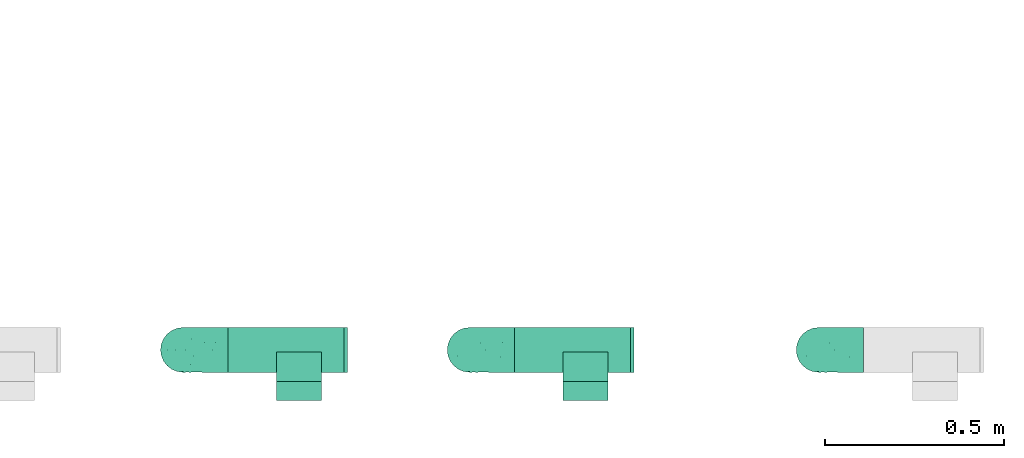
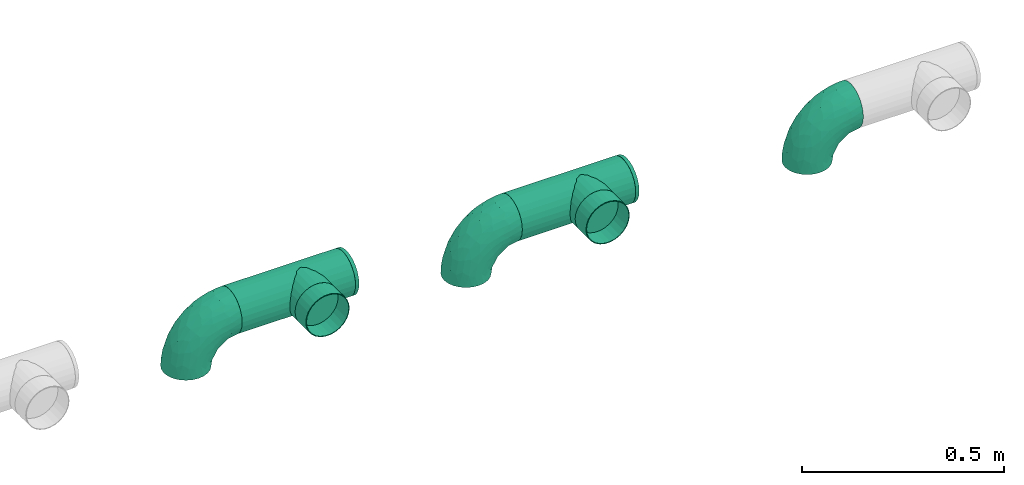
# One storey, part 5 of 63: 7 flow fittings, 4 flow segments.
"""IFC2X3 building model written with IfcOpenShell, lengths in millimetres."""

from ifc_helpers import new_model, entity, si_unit, converted_unit, derived_unit, direction, frame, origin_with_axes, origin_2d_with_axis, place, context, subcontext, project, spatial, hollow_circle, extrude, open_shell, surface_model, source, transform, mapped, type_object, element, save


model = new_model("IFC2X3")

# Units and contexts
model_context = context("Model", 3, precision=0.01, world=frame((0.0, 4.29681676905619e-09, 0.0)), true_north=direction((4.01073788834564e-13, 1.0)))
plan_context = context("Plan", 3, precision=0.01, world=frame((0.0, 4.29681676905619e-09, 0.0)), true_north=direction((4.01073788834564e-13, 1.0)))
body_context = subcontext(model_context, "Body", "Model", "MODEL_VIEW")
ifc_project = project(units=[converted_unit("PLANEANGLEUNIT", "DEGREE", entity("IfcPositiveLengthMeasure", 0.0174532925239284), si_unit("PLANEANGLEUNIT", "RADIAN"), dimensions=[0, 0, 0, 0, 0, 0, 0]), si_unit("AREAUNIT", "SQUARE_METRE"), si_unit("LENGTHUNIT", "METRE", prefix="MILLI"), si_unit("MASSUNIT", "GRAM", prefix="KILO"), si_unit("POWERUNIT", "WATT"), si_unit("PRESSUREUNIT", "PASCAL"), si_unit("FORCEUNIT", "NEWTON", prefix="KILO"), si_unit("ELECTRICVOLTAGEUNIT", "VOLT"), si_unit("ELECTRICCURRENTUNIT", "AMPERE"), si_unit("THERMODYNAMICTEMPERATUREUNIT", "DEGREE_CELSIUS"), si_unit("TIMEUNIT", "SECOND"), si_unit("VOLUMEUNIT", "CUBIC_METRE"), derived_unit("LINEARVELOCITYUNIT", [(si_unit("LENGTHUNIT", "METRE"), 1), (si_unit("TIMEUNIT", "SECOND"), -1)]), derived_unit("VOLUMETRICFLOWRATEUNIT", [(si_unit("VOLUMEUNIT", "CUBIC_METRE"), 1), (si_unit("TIMEUNIT", "SECOND"), -1)]), derived_unit("THERMALTRANSMITTANCEUNIT", [(si_unit("POWERUNIT", "WATT"), 1), (si_unit("THERMODYNAMICTEMPERATUREUNIT", "KELVIN"), -1), (si_unit("AREAUNIT", "SQUARE_METRE"), -1)]), derived_unit("SOUNDPRESSUREUNIT", [(si_unit("PRESSUREUNIT", "PASCAL"), 1)])], contexts=[model_context, plan_context])

# Site, building, storey
site_placement = place(None, frame((0.0, -4.29681676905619e-09, 0.0), z_axis=(0.0, 0.0, 1.0), x_axis=(1.0, 0.0, 0.0)))
site = spatial("IfcSite", under=ifc_project, at=site_placement, CompositionType="ELEMENT")
building_placement = place(site_placement, frame((0.0, 4.29681676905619e-09, 0.0), z_axis=(0.0, 0.0, 1.0), x_axis=(1.0, 0.0, 0.0)))
building = spatial("IfcBuilding", under=site, at=building_placement, Name="mc-building", CompositionType="ELEMENT")
storey_placement = place(building_placement, frame((0.0, 0.0, 210900.0), z_axis=(0.0, 0.0, 1.0), x_axis=(1.0, 0.0, 0.0)))
storey = spatial("IfcBuildingStorey", under=building, at=storey_placement, Name="Nivå F", CompositionType="ELEMENT", Elevation=210900.0)

# Flow fittings
duct_fitting_type_1 = type_object("IfcDuctFittingType", Name="magicirc_elbow_full_radius_001", PredefinedType="BEND")
shared_shape_1 = source(origin_with_axes(), body_context, "Body", "SurfaceModel", [
    surface_model("IfcShellBasedSurfaceModel", [(-125.0, 16.17619, -60.37037), (-125.0, 0.0, -62.5), (-125.0, 44.19417, -44.19417), (-125.0, 31.25, -54.12659), (-125.0, 60.37037, -16.17619), (-125.0, 54.12659, -31.25), (-125.0, -16.17619, -60.37037), (-125.0, -31.25, -54.12659), (-125.0, -44.19417, -44.19417), (-125.0, -54.12659, -31.25), (-125.0, -60.37037, -16.17619), (-125.0, -62.5, 0.0), (-125.0, 62.5, 0.0), (-125.0, -31.25, 54.12659), (-125.0, 60.37037, 16.17619), (-125.0, 54.12659, 31.25), (-125.0, 16.17619, 60.37037), (-125.0, 31.25, 54.12659), (-125.0, 44.19417, 44.19417), (-125.0, -54.12659, 31.25), (-125.0, -44.19417, 44.19417), (-125.0, -60.37037, 16.17619), (-125.0, -16.17619, 60.37037), (-125.0, 0.0, 62.5), (-44.19417, 125.0, -44.19417), (0.0, 125.0, -62.5), (-16.17619, 125.0, -60.37037), (-31.25, 125.0, -54.12659), (-54.12659, 125.0, -31.25), (-60.37037, 125.0, -16.17619), (16.17619, 125.0, -60.37037), (44.19417, 125.0, -44.19417), (31.25, 125.0, -54.12659), (60.37037, 125.0, -16.17619), (54.12659, 125.0, -31.25), (62.5, 125.0, 0.0), (44.19417, 125.0, 44.19417), (31.25, 125.0, 54.12659), (-62.5, 125.0, 0.0), (-60.37037, 125.0, 16.17619), (-54.12659, 125.0, 31.25), (-16.17619, 125.0, 60.37037), (-44.19417, 125.0, 44.19417), (-31.25, 125.0, 54.12659), (60.37037, 125.0, 16.17619), (54.12659, 125.0, 31.25), (0.0, 125.0, 62.5), (16.17619, 125.0, 60.37037), (-92.0149, -48.59662, 35.11543), (-82.31101, -36.10079, 46.59002), (-83.27732, -57.79898, 0.0), (21.5934, 8.09566, 0.0), (6.68953, -6.68953, 12.50062), (-8.09566, -21.5934, 0.0), (-85.18285, -54.95352, 19.72452), (-63.86862, 108.10791, 10.69753), (-72.65264, 88.16475, 13.64847), (-58.85933, 108.47697, 26.01876), (28.68805, 50.93011, 42.73586), (15.24994, 48.30376, 51.88115), (13.33611, 22.15566, 40.76355), (-28.58034, -33.18174, 16.61251), (-55.80927, -40.00167, 31.60254), (-55.92901, -46.21073, 18.75923), (-43.6468, -43.93166, 0.0), (-11.16429, 11.16428, 51.09905), (-91.91541, -23.64007, 56.2333), (-48.30376, -15.24994, 51.88115), (-62.2246, -0.56088, 60.57833), (-86.05221, 71.09173, 22.01563), (-76.29757, 73.71528, 30.99181), (-95.48, -8.27954, 61.43109), (-21.72166, 61.46244, 62.38786), (-46.29465, 46.29465, 60.98138), (-37.21568, 27.31198, 62.17805), (-96.3442, 24.51222, 59.0402), (-23.33012, 107.80836, 58.54242), (-8.56588, 93.49118, 62.34649), (-87.52028, 9.58041, 62.39347), (-90.8433, 62.14568, 32.36992), (-104.65631, 61.64741, 22.10298), (-108.67612, 63.76169, 10.43133), (-88.81041, 72.98575, 10.36437), (36.10079, 82.31101, 46.59002), (-22.15566, -13.33612, 40.76355), (-97.70214, 52.10141, 41.01675), (33.18174, 28.58034, 16.61251), (43.93166, 43.6468, 0.0), (-108.13323, 37.84893, 50.9265), (-16.31425, 41.86087, 61.36861), (-31.05498, 11.46575, 58.36241), (-6.38494, 33.76703, 57.43674), (23.64007, 91.91541, 56.2333), (8.27954, 95.48, 61.43109), (40.00167, 55.80927, 31.60254), (47.31258, 55.33607, 14.21495), (57.79898, 83.27732, 0.0), (54.95352, 85.18285, 19.72452), (48.59662, 92.0149, 35.11543), (-51.08394, 80.06201, 49.23756), (-51.34965, 100.68876, 40.68918), (-65.88145, 69.79931, 44.27158), (-67.25753, 101.08228, 0.0), (-66.7509, 56.0836, 51.93913), (-47.27423, 67.56375, 55.69769), (-80.80582, 80.80582, 0.0), (-101.08228, 67.25753, 0.0), (-27.0301, 84.68903, 59.52251), (-39.49549, 96.79785, 51.80473), (-4.68934, 4.68934, 43.22247), (2.91368, -2.91368, 27.95973), (-68.67967, 26.77168, 61.38152), (-61.32894, 15.31518, 62.47333), (-66.44476, 42.40788, 57.80884), (-86.06534, 42.42608, 52.63144), (-36.4073, 64.87811, 59.87196), (0.56088, 62.2246, 60.57833), (-50.92891, -28.66756, 42.755), (-64.50927, 88.5041, 30.85553), (-27.43118, -26.16339, 29.83954), (22.73426, 21.43212, 28.89237), (-90.73911, 40.97988, -52.27133), (-51.05944, -15.77315, -52.43613), (-54.27147, -0.77962, -59.44482), (-25.11169, -1.04586, -51.21226), (-98.94229, 7.90272, -62.29658), (-67.16143, 94.52638, -18.73917), (-96.1712, 24.53976, -59.04752), (-57.8841, 72.64103, -48.12601), (-44.50916, 76.42373, -54.27754), (-57.76281, 57.76281, -54.8772), (-107.28047, 64.03146, -11.08737), (-59.60363, -46.85882, -20.9596), (-91.17795, -55.95169, -20.37554), (-87.70528, 72.36167, -15.72738), (37.33987, 90.42119, -47.18844), (21.5694, 79.15007, -55.58604), (24.6394, 105.55614, -56.88213), (-98.81833, 51.80612, -40.89409), (-75.37655, 57.2746, -47.13743), (-29.56225, -32.61603, -19.86672), (2.63114, 29.35884, -52.12213), (-22.06401, 22.064, -59.01679), (-105.22465, -49.75349, -36.31269), (-39.22852, 98.11971, -51.7028), (-25.51302, 90.93127, -59.26694), (7.06321, 14.54725, -41.00964), (25.49531, 46.66577, -43.72165), (20.99941, 20.9078, -30.93535), (-90.42119, -37.33987, -47.18844), (-47.40462, -35.90659, -32.07933), (-105.55614, -24.6394, -56.88213), (0.77962, 54.27147, -59.44482), (12.91756, 53.35696, -54.59988), (7.88048, 92.08251, -61.35725), (-79.15007, -21.5694, -55.58604), (-92.08251, -7.88048, -61.35725), (-78.52964, -46.34869, -33.8522), (-68.20954, -28.53784, -49.07387), (46.34869, 78.52964, -33.8522), (46.85882, 59.60363, -20.9596), (35.90659, 47.40462, -32.07933), (-75.95077, 74.3101, -30.65772), (-100.92719, 60.72326, -27.00798), (2.91558, -2.91558, -27.95435), (6.69001, -6.69001, -12.49729), (32.61603, 29.56225, -19.86672), (-54.06785, 91.48679, -41.70621), (-58.74822, 101.55878, -30.19257), (-7.90272, 98.94229, -62.29658), (49.75349, 105.22465, -36.31269), (-14.77484, 68.85348, -62.48651), (-33.7955, 36.46996, -62.46452), (-36.98162, 59.24998, -60.63975), (55.95169, 91.17795, -20.37554), (-61.70769, 36.16979, -60.43635), (-23.35082, -23.18253, -30.24249), (-68.85348, 14.77484, -62.48651), (-16.60827, -10.64436, -39.25753), (-46.66577, -25.49531, -43.72165), (-69.70063, 70.78468, -40.55271)], [open_shell([[[0, 1, 2]], [[3, 0, 2]], [[4, 5, 2]], [[6, 2, 1]], [[4, 2, 6]], [[7, 8, 6]], [[8, 4, 6]], [[9, 10, 8]], [[11, 8, 10]], [[8, 11, 4]], [[11, 12, 4]], [[12, 13, 14]], [[15, 14, 16]], [[16, 17, 18]], [[15, 16, 18]], [[16, 14, 13]], [[19, 20, 21]], [[21, 20, 11]], [[22, 23, 13]], [[20, 13, 11]], [[13, 23, 16]], [[13, 12, 11]], [[24, 25, 26]], [[24, 26, 27]], [[24, 28, 29]], [[25, 24, 30]], [[30, 24, 29]], [[30, 31, 32]], [[30, 29, 31]], [[31, 33, 34]], [[33, 31, 35]], [[31, 36, 35]], [[31, 29, 37]], [[38, 39, 40]], [[38, 40, 41]], [[42, 43, 41]], [[42, 41, 40]], [[38, 41, 37]], [[44, 36, 45]], [[35, 36, 44]], [[37, 46, 47]], [[31, 37, 36]], [[41, 46, 37]], [[29, 38, 37]], [[20, 48, 49]], [[21, 11, 50]], [[51, 52, 53]], [[54, 19, 21]], [[50, 54, 21]], [[55, 56, 57]], [[19, 48, 20]], [[58, 59, 60]], [[61, 62, 63]], [[61, 63, 64]], [[20, 49, 13]], [[61, 64, 53]], [[65, 60, 59]], [[66, 67, 68]], [[56, 69, 70]], [[71, 23, 22]], [[72, 73, 74]], [[17, 16, 75]], [[66, 13, 49]], [[41, 76, 77]], [[23, 78, 16]], [[15, 79, 80]], [[81, 12, 14]], [[69, 82, 81]], [[83, 36, 37]], [[65, 67, 84]], [[18, 85, 15]], [[86, 51, 87]], [[18, 17, 88]], [[89, 90, 91]], [[83, 37, 92]], [[69, 81, 80]], [[93, 47, 46]], [[94, 86, 95]], [[96, 97, 95]], [[96, 44, 97]], [[98, 97, 45]], [[46, 41, 77]], [[63, 50, 64]], [[44, 45, 97]], [[83, 94, 98]], [[45, 36, 98]], [[99, 100, 101]], [[55, 102, 56]], [[39, 57, 40]], [[44, 96, 35]], [[48, 54, 62]], [[79, 70, 69]], [[99, 103, 104]], [[38, 102, 55]], [[23, 71, 78]], [[56, 105, 82]], [[18, 88, 85]], [[102, 105, 56]], [[92, 37, 47]], [[57, 100, 40]], [[82, 105, 106]], [[107, 108, 104]], [[109, 110, 60]], [[107, 72, 77]], [[13, 66, 22]], [[108, 107, 76]], [[76, 41, 43]], [[43, 42, 108]], [[83, 92, 59]], [[95, 86, 87]], [[111, 112, 74]], [[75, 16, 78]], [[113, 75, 111]], [[103, 85, 114]], [[80, 79, 69]], [[100, 42, 40]], [[115, 104, 73]], [[107, 115, 72]], [[93, 77, 116]], [[67, 66, 49]], [[71, 66, 68]], [[67, 117, 84]], [[67, 65, 90]], [[93, 92, 47]], [[116, 91, 59]], [[116, 59, 92]], [[109, 60, 65]], [[54, 48, 19]], [[49, 48, 62]], [[83, 98, 36]], [[97, 98, 94]], [[111, 75, 78]], [[88, 75, 114]], [[81, 82, 106]], [[56, 82, 69]], [[12, 81, 106]], [[81, 14, 80]], [[14, 15, 80]], [[79, 15, 85]], [[85, 101, 79]], [[70, 101, 118]], [[108, 99, 104]], [[113, 103, 114]], [[111, 74, 73]], [[116, 77, 72]], [[90, 74, 68]], [[72, 74, 89]], [[77, 93, 46]], [[92, 93, 116]], [[66, 71, 22]], [[78, 71, 68]], [[101, 100, 118]], [[108, 42, 100]], [[52, 61, 53]], [[119, 110, 84]], [[94, 58, 120]], [[86, 120, 52]], [[117, 67, 49]], [[61, 119, 62]], [[120, 60, 110]], [[83, 58, 94]], [[111, 78, 112]], [[113, 111, 73]], [[104, 113, 73]], [[75, 113, 114]], [[104, 103, 113]], [[85, 103, 101]], [[78, 68, 112]], [[68, 74, 112]], [[101, 70, 79]], [[56, 70, 118]], [[67, 90, 68]], [[91, 90, 65]], [[59, 91, 65]], [[89, 91, 116]], [[72, 89, 116]], [[90, 89, 74]], [[57, 56, 118]], [[38, 55, 39]], [[86, 52, 51]], [[61, 52, 110]], [[75, 88, 17]], [[85, 88, 114]], [[108, 76, 43]], [[77, 76, 107]], [[55, 57, 39]], [[100, 57, 118]], [[72, 115, 73]], [[107, 104, 115]], [[100, 99, 108]], [[103, 99, 101]], [[62, 54, 63]], [[63, 54, 50]], [[96, 95, 87]], [[94, 95, 97]], [[49, 62, 117]], [[119, 117, 62]], [[110, 119, 61]], [[117, 119, 84]], [[65, 84, 109]], [[110, 109, 84]], [[52, 120, 110]], [[94, 120, 86]], [[59, 58, 83]], [[120, 58, 60]], [[2, 121, 3]], [[122, 123, 124]], [[1, 0, 125]], [[126, 102, 38]], [[3, 127, 0]], [[128, 129, 130]], [[106, 131, 12]], [[132, 50, 133]], [[106, 134, 131]], [[135, 136, 137]], [[138, 139, 121]], [[64, 140, 53]], [[141, 124, 142]], [[121, 2, 138]], [[133, 9, 143]], [[144, 27, 145]], [[50, 11, 10]], [[146, 147, 148]], [[149, 8, 7]], [[140, 132, 150]], [[151, 149, 7]], [[141, 152, 153]], [[30, 154, 25]], [[133, 10, 9]], [[143, 9, 8]], [[155, 156, 123]], [[157, 149, 158]], [[7, 6, 151]], [[156, 6, 1]], [[159, 160, 161]], [[105, 134, 106]], [[64, 50, 132]], [[126, 162, 134]], [[138, 163, 162]], [[29, 126, 38]], [[140, 164, 165]], [[166, 87, 51]], [[167, 168, 28]], [[162, 126, 168]], [[32, 31, 135]], [[154, 30, 137]], [[26, 169, 145]], [[127, 3, 121]], [[169, 26, 25]], [[31, 34, 170]], [[27, 144, 24]], [[26, 145, 27]], [[30, 32, 137]], [[87, 166, 160]], [[165, 166, 51]], [[171, 172, 173]], [[142, 152, 141]], [[165, 51, 53]], [[156, 155, 151]], [[136, 135, 147]], [[34, 33, 174]], [[35, 96, 33]], [[175, 127, 121]], [[2, 5, 138]], [[174, 159, 170]], [[176, 140, 150]], [[171, 154, 152]], [[126, 105, 102]], [[28, 24, 167]], [[173, 145, 171]], [[131, 163, 4]], [[128, 144, 129]], [[139, 128, 130]], [[174, 160, 159]], [[170, 135, 31]], [[147, 135, 159]], [[152, 154, 136]], [[169, 154, 171]], [[153, 147, 141]], [[152, 142, 172]], [[33, 96, 174]], [[160, 96, 87]], [[155, 122, 158]], [[143, 149, 157]], [[125, 156, 1]], [[177, 172, 123]], [[177, 123, 156]], [[123, 142, 124]], [[133, 157, 132]], [[50, 10, 133]], [[126, 134, 105]], [[168, 29, 28]], [[163, 5, 4]], [[121, 139, 130]], [[175, 121, 130]], [[125, 127, 177]], [[145, 173, 129]], [[167, 24, 144]], [[147, 146, 141]], [[178, 124, 146]], [[124, 141, 146]], [[124, 179, 122]], [[162, 163, 134]], [[138, 5, 163]], [[127, 125, 0]], [[156, 125, 177]], [[154, 169, 25]], [[145, 169, 171]], [[147, 161, 148]], [[146, 164, 178]], [[176, 164, 140]], [[124, 178, 179]], [[171, 152, 172]], [[175, 130, 173]], [[123, 172, 142]], [[175, 172, 177]], [[172, 175, 173]], [[127, 175, 177]], [[162, 180, 138]], [[180, 167, 128]], [[160, 174, 96]], [[161, 160, 166]], [[161, 166, 148]], [[147, 159, 161]], [[166, 164, 148]], [[164, 146, 148]], [[150, 132, 157]], [[64, 132, 140]], [[157, 179, 150]], [[176, 179, 178]], [[180, 128, 139]], [[144, 128, 167]], [[145, 129, 144]], [[173, 130, 129]], [[138, 180, 139]], [[167, 180, 162]], [[179, 176, 150]], [[164, 176, 178]], [[140, 165, 53]], [[166, 165, 164]], [[163, 131, 134]], [[12, 131, 4]], [[135, 137, 32]], [[154, 137, 136]], [[174, 170, 34]], [[135, 170, 159]], [[156, 151, 6]], [[149, 151, 155]], [[149, 143, 8]], [[133, 143, 157]], [[162, 168, 167]], [[29, 168, 126]], [[152, 136, 153]], [[147, 153, 136]], [[158, 122, 179]], [[123, 122, 155]], [[157, 158, 179]], [[155, 158, 149]]])]),
])
for number, where, z_axis, x_axis, name in (
    (1, (523423.16875, 440892.96265, 2163.0), (0.0, -1.0, 0.0), (-1.0, 0.0, 0.0), "magicirc_elbow_full_radius_001"),
    (2, (524223.16875, 440892.96265, 2163.0), (0.0, -1.0, 0.0), (-1.0, 0.0, 0.0), "magicirc_elbow_full_radius_001"),
    (3, (525197.16875, 440892.96265, 2163.0), (0.0, -1.0, 0.0), (-1.0, 0.0, 0.0), "magicirc_elbow_full_radius_001"),
):
    element("IfcFlowFitting", number, at=place(storey_placement, frame(where, z_axis=z_axis, x_axis=x_axis)), inside=storey, type_object=duct_fitting_type_1, Name=name, context=body_context, shape_type="MappedRepresentation", body=[
        mapped(shared_shape_1, transform((0.0, 0.0, 0.0), scale=1.0)),
    ])
duct_fitting_type_2 = type_object("IfcDuctFittingType", Name="magicirc_tapoutlet_001", PredefinedType="CONNECTOR")
shared_shape_2 = source(origin_with_axes(), body_context, "Body", "SurfaceModel", [
    surface_model("IfcShellBasedSurfaceModel", [(25.0, 0.0, -62.5), (25.0, -31.25, -54.12659), (25.0, -16.17619, -60.37037), (25.0, 44.19417, -44.19417), (25.0, 62.5, 0.0), (25.0, 31.25, -54.12659), (25.0, 54.12659, -31.25), (25.0, -62.5, 0.0), (25.0, -60.37037, -16.17619), (25.0, -60.37037, 16.17619), (25.0, 16.17619, -60.37037), (25.0, -44.19417, -44.19417), (25.0, -54.12659, -31.25), (25.0, 60.37037, -16.17619), (25.0, 60.37037, 16.17619), (25.0, 54.12659, 31.25), (25.0, 44.19417, 44.19417), (25.0, 31.25, 54.12659), (25.0, 0.0, 62.5), (25.0, 16.17619, 60.37037), (25.0, -44.19417, 44.19417), (25.0, -54.12659, 31.25), (25.0, -16.17619, 60.37037), (25.0, -31.25, 54.12659), (0.0, 0.0, 62.5), (0.0, 16.17619, 60.37037), (0.0, 31.25, 54.12659), (0.0, 44.19417, 44.19417), (0.0, 54.12659, 31.25), (0.0, 60.37037, 16.17619), (0.0, 62.5, 0.0), (0.0, 60.37037, -16.17619), (0.0, 54.12659, -31.25), (0.0, 44.19417, -44.19417), (0.0, 31.25, -54.12659), (0.0, 16.17619, -60.37037), (0.0, 0.0, -62.5), (0.0, -16.17619, -60.37037), (0.0, -31.25, -54.12659), (0.0, -44.19417, -44.19417), (0.0, -54.12659, -31.25), (0.0, -60.37037, -16.17619), (0.0, -62.5, 0.0), (0.0, -60.37037, 16.17619), (0.0, -54.12659, 31.25), (0.0, -44.19417, 44.19417), (0.0, -31.25, 54.12659), (0.0, -16.17619, 60.37037), (-56.404, -44.19417, -44.19417), (-56.404, -54.12659, -31.25), (-56.404, -62.5, 0.0), (-56.404, -31.25, -54.12659), (-56.404, 0.0, -62.5), (-56.404, 62.5, 0.0), (-56.404, 60.37037, -16.17619), (-56.404, 60.37037, 16.17619), (-56.404, -16.17619, -60.37037), (-56.404, 16.17619, -60.37037), (-56.404, 31.25, -54.12659), (-56.404, 44.19417, -44.19417), (-56.404, 54.12659, -31.25), (-56.404, -60.37037, 16.17619), (-56.404, -60.37037, -16.17619), (-56.404, 54.12659, 31.25), (-56.404, 44.19417, 44.19417), (-56.404, 16.17619, 60.37037), (-56.404, 31.25, 54.12659), (-56.404, -16.17619, 60.37037), (-56.404, -54.12659, 31.25), (-56.404, -44.19417, 44.19417), (-56.404, -31.25, 54.12659), (-56.404, 0.0, 62.5)], [open_shell([[[0, 1, 2]], [[3, 4, 5]], [[3, 6, 4]], [[7, 8, 9]], [[10, 4, 0]], [[5, 4, 10]], [[11, 0, 9]], [[0, 11, 1]], [[1, 2, 0]], [[12, 9, 8]], [[9, 12, 11]], [[8, 9, 7]], [[4, 6, 13]], [[14, 15, 0]], [[0, 15, 16]], [[0, 17, 18]], [[16, 17, 0]], [[17, 19, 18]], [[0, 20, 21]], [[21, 9, 0]], [[22, 23, 0]], [[23, 20, 0]], [[22, 0, 18]], [[4, 14, 0]], [[24, 18, 19]], [[25, 19, 17]], [[24, 19, 25]], [[26, 16, 27]], [[26, 25, 17]], [[16, 26, 17]], [[28, 15, 14]], [[29, 14, 4]], [[27, 15, 28]], [[29, 28, 14]], [[30, 29, 4]], [[15, 27, 16]], [[30, 4, 13]], [[31, 13, 6]], [[30, 13, 31]], [[32, 3, 33]], [[32, 31, 6]], [[3, 32, 6]], [[34, 5, 10]], [[35, 10, 0]], [[33, 5, 34]], [[35, 34, 10]], [[36, 35, 0]], [[5, 33, 3]], [[36, 0, 2]], [[37, 2, 1]], [[36, 2, 37]], [[38, 11, 39]], [[38, 37, 1]], [[11, 38, 1]], [[40, 12, 8]], [[41, 8, 7]], [[39, 12, 40]], [[41, 40, 8]], [[42, 41, 7]], [[12, 39, 11]], [[42, 7, 9]], [[43, 9, 21]], [[42, 9, 43]], [[44, 20, 45]], [[44, 43, 21]], [[20, 44, 21]], [[46, 23, 22]], [[47, 22, 18]], [[45, 23, 46]], [[47, 46, 22]], [[24, 47, 18]], [[23, 45, 20]], [[15, 0, 14]], [[15, 16, 0]], [[0, 16, 17]], [[18, 17, 19]], [[9, 0, 21]], [[0, 23, 20]], [[18, 22, 0]], [[14, 0, 4]], [[48, 49, 50]], [[48, 50, 51]], [[36, 37, 52]], [[52, 35, 36]], [[53, 54, 55]], [[52, 56, 57]], [[57, 55, 58]], [[59, 55, 60]], [[58, 55, 59]], [[57, 50, 61]], [[56, 51, 50]], [[62, 50, 49]], [[50, 57, 56]], [[54, 60, 55]], [[55, 57, 63]], [[64, 63, 57]], [[57, 65, 66]], [[57, 66, 64]], [[57, 67, 65]], [[68, 69, 57]], [[57, 61, 68]], [[69, 70, 57]], [[57, 70, 67]], [[67, 71, 65]], [[71, 24, 25]], [[66, 25, 26]], [[71, 25, 65]], [[65, 25, 66]], [[26, 64, 66]], [[26, 27, 64]], [[55, 28, 29]], [[53, 29, 30]], [[27, 63, 64]], [[27, 28, 63]], [[63, 28, 55]], [[29, 53, 55]], [[54, 30, 31]], [[60, 31, 32]], [[53, 30, 54]], [[54, 31, 60]], [[32, 59, 60]], [[32, 33, 59]], [[57, 34, 35]], [[33, 58, 59]], [[33, 34, 58]], [[58, 34, 57]], [[35, 52, 57]], [[37, 38, 51]], [[52, 37, 56]], [[48, 51, 38]], [[37, 51, 56]], [[38, 39, 48]], [[62, 40, 41]], [[50, 41, 42]], [[39, 49, 48]], [[39, 40, 49]], [[49, 40, 62]], [[41, 50, 62]], [[43, 44, 68]], [[42, 43, 61]], [[61, 50, 42]], [[68, 61, 43]], [[44, 69, 68]], [[44, 45, 69]], [[67, 46, 47]], [[71, 47, 24]], [[45, 70, 69]], [[45, 46, 70]], [[70, 46, 67]], [[47, 71, 67]], [[57, 63, 55]], [[57, 64, 63]], [[66, 57, 65]], [[66, 64, 57]], [[65, 57, 67]], [[68, 57, 61]]])]),
])
for number, where, z_axis, x_axis, name in (
    (4, (524546.94464, 440830.46265, 2163.0), (0.0, 0.0, -1.0), (0.0, -1.0, 0.0), "magicirc_tapoutlet_001"),
    (5, (523746.94464, 440830.46265, 2163.0), (0.0, 0.0, -1.0), (0.0, -1.0, 0.0), "magicirc_tapoutlet_001"),
):
    element("IfcFlowFitting", number, at=place(storey_placement, frame(where, z_axis=z_axis, x_axis=x_axis)), inside=storey, type_object=duct_fitting_type_2, Name=name, context=body_context, shape_type="MappedRepresentation", body=[
        mapped(shared_shape_2, transform((0.0, 0.0, 0.0), scale=1.0)),
    ])
duct_fitting_type_3 = type_object("IfcDuctFittingType", Name="magicirc_plug_001", PredefinedType="OBSTRUCTION")
shared_shape_3 = source(origin_with_axes(), body_context, "Body", "SurfaceModel", [
    surface_model("IfcShellBasedSurfaceModel", [(0.0, 0.0, -62.5), (0.0, -16.17619, -60.37037), (0.0, 16.17619, -60.37037), (0.0, 31.25, -54.12659), (0.0, 54.12659, -31.25), (0.0, 44.19417, -44.19417), (0.0, 60.37037, -16.17619), (0.0, -31.25, -54.12659), (0.0, -44.19417, -44.19417), (0.0, -62.5, 0.0), (0.0, -54.12659, -31.25), (0.0, -60.37037, -16.17619), (0.0, 62.5, 0.0), (0.0, 60.37037, 16.17619), (0.0, 44.19417, 44.19417), (0.0, 54.12659, 31.25), (0.0, 31.25, 54.12659), (0.0, -54.12659, 31.25), (0.0, -16.17619, 60.37037), (0.0, 16.17619, 60.37037), (0.0, -44.19417, 44.19417), (0.0, -31.25, 54.12659), (0.0, -60.37037, 16.17619), (0.0, 0.0, 62.5), (10.0, 16.17619, -60.37037), (10.0, -16.17619, -60.37037), (10.0, 0.0, -62.5), (10.0, 44.19417, -44.19417), (10.0, 31.25, -54.12659), (10.0, 54.12659, -31.25), (10.0, 60.37037, -16.17619), (10.0, -44.19417, -44.19417), (10.0, -31.25, -54.12659), (10.0, -62.5, 0.0), (10.0, -60.37037, -16.17619), (10.0, -54.12659, -31.25), (10.0, -54.12659, 31.25), (10.0, 44.19417, 44.19417), (10.0, 62.5, 0.0), (10.0, 60.37037, 16.17619), (10.0, 54.12659, 31.25), (10.0, 31.25, 54.12659), (10.0, 16.17619, 60.37037), (10.0, -16.17619, 60.37037), (10.0, -31.25, 54.12659), (10.0, -44.19417, 44.19417), (10.0, -60.37037, 16.17619), (10.0, 0.0, 62.5)], [open_shell([[[0, 1, 2]], [[3, 2, 4]], [[4, 2, 1]], [[5, 3, 4]], [[6, 4, 1]], [[7, 8, 1]], [[9, 1, 8]], [[10, 11, 8]], [[9, 8, 11]], [[9, 6, 1]], [[9, 12, 6]], [[13, 12, 14]], [[15, 13, 14]], [[16, 14, 17]], [[9, 17, 14]], [[16, 18, 19]], [[20, 21, 17]], [[17, 9, 22]], [[21, 18, 17]], [[17, 18, 16]], [[18, 23, 19]], [[14, 12, 9]], [[24, 25, 26]], [[27, 24, 28]], [[25, 24, 29]], [[29, 24, 27]], [[25, 29, 30]], [[25, 31, 32]], [[31, 25, 33]], [[31, 34, 35]], [[34, 31, 33]], [[25, 30, 33]], [[30, 36, 33]], [[37, 38, 39]], [[37, 39, 40]], [[37, 41, 42]], [[38, 37, 43]], [[43, 37, 42]], [[36, 44, 45]], [[46, 33, 36]], [[38, 44, 36]], [[43, 44, 38]], [[42, 47, 43]], [[36, 30, 38]], [[46, 9, 33]], [[36, 22, 46]], [[20, 45, 44]], [[36, 45, 17]], [[21, 44, 43]], [[36, 17, 22]], [[22, 9, 46]], [[18, 47, 23]], [[18, 21, 43]], [[20, 44, 21]], [[20, 17, 45]], [[47, 18, 43]], [[41, 19, 42]], [[37, 16, 41]], [[15, 40, 39]], [[37, 40, 14]], [[13, 39, 38]], [[41, 16, 19]], [[19, 23, 42]], [[13, 15, 39]], [[14, 40, 15]], [[14, 16, 37]], [[12, 13, 38]], [[42, 23, 47]], [[30, 12, 38]], [[29, 6, 30]], [[5, 27, 28]], [[29, 27, 4]], [[3, 28, 24]], [[29, 4, 6]], [[6, 12, 30]], [[2, 26, 0]], [[2, 3, 24]], [[5, 28, 3]], [[5, 4, 27]], [[26, 2, 24]], [[32, 1, 25]], [[31, 7, 32]], [[10, 35, 34]], [[31, 35, 8]], [[11, 34, 33]], [[32, 7, 1]], [[1, 0, 25]], [[11, 10, 34]], [[8, 35, 10]], [[8, 7, 31]], [[9, 11, 33]], [[25, 0, 26]]])]),
])
for number, where, z_axis, x_axis, name in (
    (6, (524671.94497, 440892.96265, 2163.0), (0.0, 0.0, 1.0), (1.0, 0.0, 0.0), "magicirc_plug_001"),
    (7, (523871.94497, 440892.96265, 2163.0), (0.0, 0.0, 1.0), (1.0, 0.0, 0.0), "magicirc_plug_001"),
):
    element("IfcFlowFitting", number, at=place(storey_placement, frame(where, z_axis=z_axis, x_axis=x_axis)), inside=storey, type_object=duct_fitting_type_3, Name=name, context=body_context, shape_type="MappedRepresentation", body=[
        mapped(shared_shape_3, transform((0.0, 0.0, 0.0), scale=1.0)),
    ])

# Flow segments
duct_segment_type = type_object("IfcDuctSegmentType", Name="KK001T - Spiro kanaler, Forsinket stål", PredefinedType="RIGIDSEGMENT")
shared_shape_4 = source(origin_with_axes(), body_context, "Body", "SweptSolid", [
    extrude(hollow_circle(Radius=62.5, WallThickness=2.0, at=origin_2d_with_axis()), frame((0.0, 0.0, 0.0), z_axis=(1.0, 0.0, 0.0), x_axis=(0.0, 1.0, 0.0)), (0.0, 0.0, 1.0), 53.2),
])
for number, where, z_axis, x_axis in (
    (8, (524546.94464, 440805.46265, 2163.0), (0.0, 0.0, 1.0), (0.0, -1.0, 0.0)),
    (9, (523746.94464, 440805.46265, 2163.0), (0.0, 0.0, 1.0), (0.0, -1.0, 0.0)),
):
    element("IfcFlowSegment", number, at=place(storey_placement, frame(where, z_axis=z_axis, x_axis=x_axis)), inside=storey, type_object=duct_segment_type, Name="KK001T - Spiro kanaler, Forsinket stål", context=body_context, shape_type="MappedRepresentation", body=[
        mapped(shared_shape_4, transform((0.0, 0.0, 0.0), scale=1.0)),
    ])
shared_shape_5 = source(origin_with_axes(), body_context, "Body", "SweptSolid", [
    extrude(hollow_circle(Radius=62.5, WallThickness=2.0, at=origin_2d_with_axis()), frame((0.0, 0.0, 0.0), z_axis=(1.0, 0.0, 0.0), x_axis=(0.0, 1.0, 0.0)), (0.0, 0.0, 1.0), 323.8),
])
for number, where, z_axis, x_axis in (
    (10, (524348.16875, 440892.96265, 2163.0), (0.0, 0.0, 1.0), (1.0, 0.0, 0.0)),
    (11, (523548.16875, 440892.96265, 2163.0), (0.0, 0.0, 1.0), (1.0, 0.0, 0.0)),
):
    element("IfcFlowSegment", number, at=place(storey_placement, frame(where, z_axis=z_axis, x_axis=x_axis)), inside=storey, type_object=duct_segment_type, Name="KK001T - Spiro kanaler, Forsinket stål", context=body_context, shape_type="MappedRepresentation", body=[
        mapped(shared_shape_5, transform((0.0, 0.0, 0.0), scale=1.0)),
    ])

save(model, "model.ifc")
